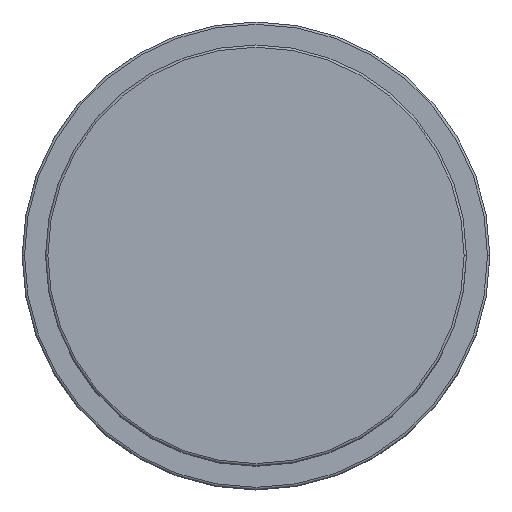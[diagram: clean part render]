
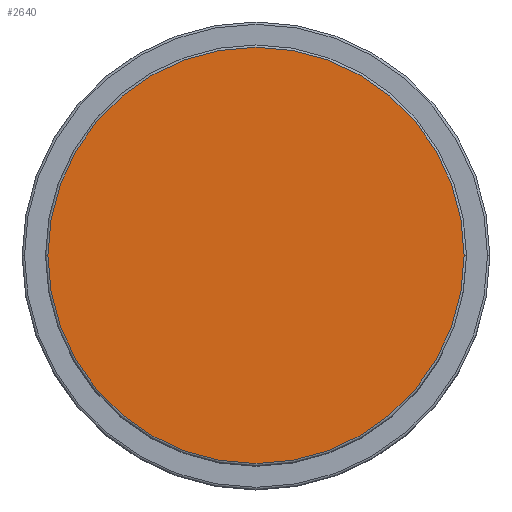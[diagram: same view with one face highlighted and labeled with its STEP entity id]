
A CAD part, top view. The second image highlights one B-rep face of the part: STEP entity #2640.
In plain terms, the highlighted planar face has unit normal (0, 0, 1).
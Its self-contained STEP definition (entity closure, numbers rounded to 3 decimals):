
#134 = DIRECTION ( 'NONE',  ( 1., 0., 0. ) ) ;
#156 = DIRECTION ( 'NONE',  ( 0., 0., 1. ) ) ;
#417 = PLANE ( 'NONE',  #5498 ) ;
#490 = DIRECTION ( 'NONE',  ( 1., 0., 0. ) ) ;
#1091 = VERTEX_POINT ( 'NONE', #6007 ) ;
#1137 = ORIENTED_EDGE ( 'NONE', *, *, #6650, .T. ) ;
#1187 = EDGE_CURVE ( 'NONE', #2739, #1091, #2533, .T. ) ;
#1925 = ORIENTED_EDGE ( 'NONE', *, *, #1187, .T. ) ;
#2533 = CIRCLE ( 'NONE', #4108, 44.5 ) ;
#2640 = ADVANCED_FACE ( 'NONE', ( #5015 ), #417, .T. ) ;
#2739 = VERTEX_POINT ( 'NONE', #6118 ) ;
#2936 = CARTESIAN_POINT ( 'NONE',  ( 0., 0., 72. ) ) ;
#3179 = DIRECTION ( 'NONE',  ( 0., 0., 1. ) ) ;
#3428 = CIRCLE ( 'NONE', #5944, 44.5 ) ;
#3914 = DIRECTION ( 'NONE',  ( 0., 0., 1. ) ) ;
#4108 = AXIS2_PLACEMENT_3D ( 'NONE', #6694, #3914, #490 ) ;
#5015 = FACE_OUTER_BOUND ( 'NONE', #6463, .T. ) ;
#5447 = CARTESIAN_POINT ( 'NONE',  ( 0., 0., 72. ) ) ;
#5498 = AXIS2_PLACEMENT_3D ( 'NONE', #5447, #3179, #7063 ) ;
#5944 = AXIS2_PLACEMENT_3D ( 'NONE', #2936, #156, #134 ) ;
#6007 = CARTESIAN_POINT ( 'NONE',  ( -44.5, 0., 72. ) ) ;
#6118 = CARTESIAN_POINT ( 'NONE',  ( 44.5, 0., 72. ) ) ;
#6463 = EDGE_LOOP ( 'NONE', ( #1925, #1137 ) ) ;
#6650 = EDGE_CURVE ( 'NONE', #1091, #2739, #3428, .T. ) ;
#6694 = CARTESIAN_POINT ( 'NONE',  ( 0., 0., 72. ) ) ;
#7063 = DIRECTION ( 'NONE',  ( 1., 0., 0. ) ) ;
